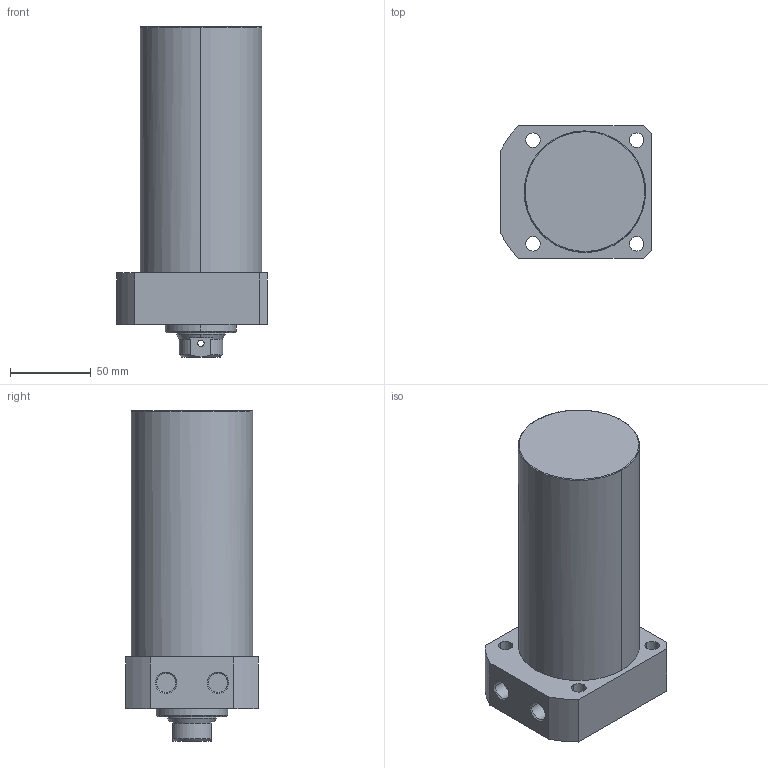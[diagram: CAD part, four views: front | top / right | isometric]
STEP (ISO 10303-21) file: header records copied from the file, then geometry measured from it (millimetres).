
FILE_DESCRIPTION((' '),'2;1');
FILE_NAME( 'TLLR-075CB-115.STEP.stp', '2025-10-24T16:35:09', (' '), ('--- Datakit www.datakit.com---'), ' Datakit CrossCadWare V2024.1 Dec 21 2023', 'Mastercam 2025', ' ');
FILE_SCHEMA(('AUTOMOTIVE_DESIGN { 1 0 10303 214 1 1 1 1 }'));
Length unit declared in the file: millimetre
Products named in the file (1): TLLR-075CB-115
Bounding box: 93 x 82 x 204 mm (x, y, z)
Volume: 906488.2 mm3; surface area: 69554.2 mm2
Topology: 1 solids, 1 shells, 67 faces, 197 edges, 136 vertices
Faces by surface type: cylinder 32, plane 19, cone 14, torus 2
Entity records: 3386 total; most frequent: CARTESIAN_POINT 1467, DIRECTION 426, ORIENTED_EDGE 390, EDGE_CURVE 195, AXIS2_PLACEMENT_3D 179, VERTEX_POINT 136, CIRCLE 111, EDGE_LOOP 85
